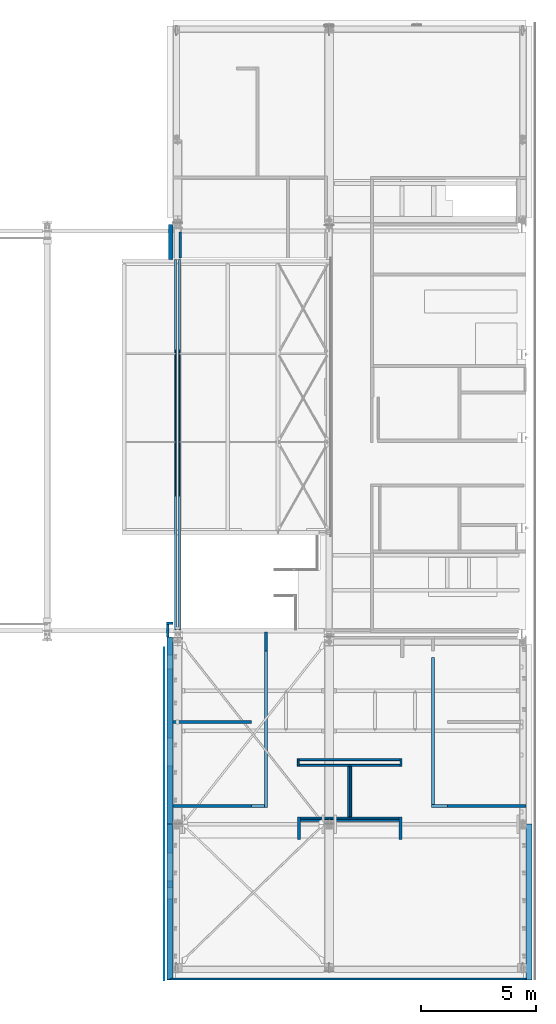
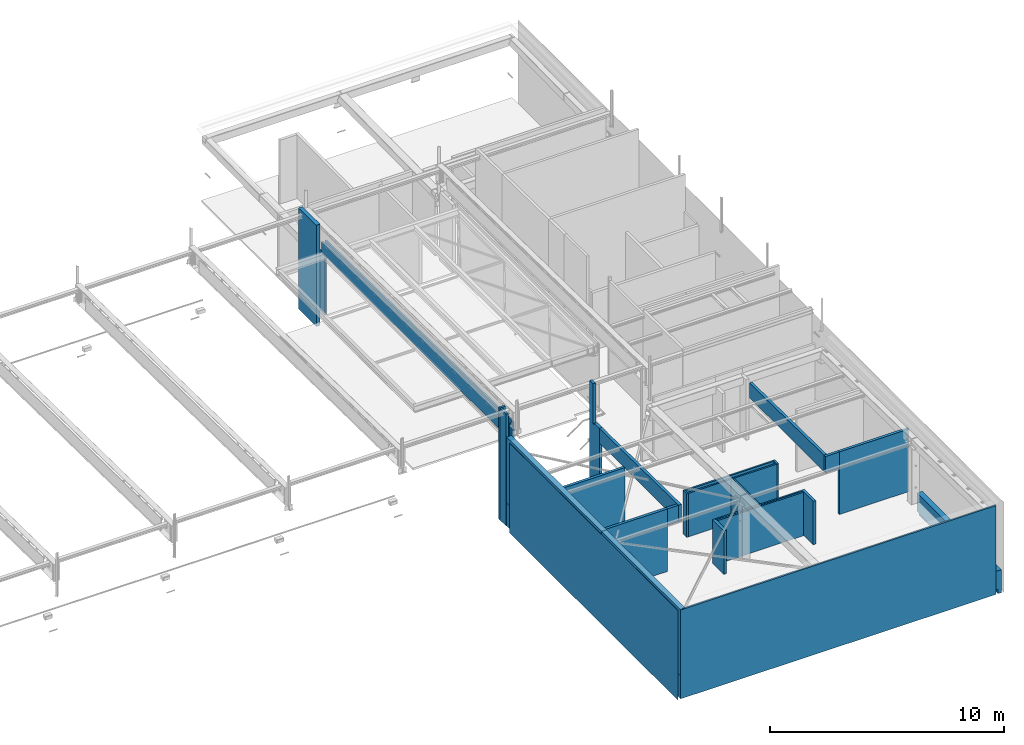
# One storey, part 120 of 186: 31 walls, 7 openings.
"""IFC4X3_ADD2 building model written with IfcOpenShell, lengths in millimetres."""

from ifc_helpers import new_model, si_unit, direction, frame, frame_2d, origin_with_axes, place, context, subcontext, project, spatial, polyline, rectangle, outline, extrude, clip, bounded_halfspace, material, layer, layer_set, type_object, element, save


model = new_model("IFC4X3_ADD2")

# Units and contexts
model_context = context("Model", 3, precision=1e-05, world=origin_with_axes(), true_north=direction((0.0, 1.0)))
body_context = subcontext(model_context, "Body", "Model", "MODEL_VIEW")
ifc_project = project(units=[si_unit("LENGTHUNIT", "METRE", prefix="MILLI"), si_unit("AREAUNIT", "SQUARE_METRE"), si_unit("VOLUMEUNIT", "CUBIC_METRE"), si_unit("PLANEANGLEUNIT", "RADIAN"), si_unit("TIMEUNIT", "SECOND"), si_unit("MASSUNIT", "GRAM")], contexts=[model_context])

# Site, building, storey
site_placement = place(None, origin_with_axes())
site = spatial("IfcSite", under=ifc_project, at=site_placement, Name="Site", CompositionType="ELEMENT")
building_placement = place(site_placement, origin_with_axes())
building = spatial("IfcBuilding", under=site, at=building_placement, Name="IFC Building Story")
storey_placement = place(building_placement, frame((0.0, 0.0, 4370.0), z_axis=(0.0, 0.0, 1.0), x_axis=(1.0, 0.0, 0.0)))
storey = spatial("IfcBuildingStorey", under=building, at=storey_placement, Name="ETAGE 10 (1)", Elevation=4370.0)

# Walls
ifc_material_1 = material(Name="BS_28_Ossature en béton armé - Eléments préfabriqués(panneau façade)")
ifc_layer_1 = layer(ifc_material_1, 90.0)
ifc_material_2 = material(Name="BS_21_Isolation des murs extérieurs")
ifc_layer_2 = layer(ifc_material_2, 100.0)
ifc_layer_3 = layer(ifc_material_1, 60.0)
ifc_layer_set_1 = layer_set([ifc_layer_1, ifc_layer_2, ifc_layer_3], Name="Mur de base:BS_21_WA_BTpréfab90-ISO100-BTlissépréfab60")
wall_type_1 = type_object("IfcWallType", Name="Mur de base:BS_21_WA_BTpréfab90-ISO100-BTlissépréfab60 250", PredefinedType="NOTDEFINED", material=ifc_layer_set_1)
wall_1_placement = place(storey_placement, origin_with_axes())
element("IfcWall", 1, at=wall_1_placement, inside=storey, type_object=wall_type_1, Name="Mur de base:BS_21_WA_BTpréfab90-ISO100-BTlissépréfab60", ObjectType="Mur de base:BS_21_WA_BTpréfab90-ISO100-BTlissépréfab60", context=body_context, shape_type="Clipping", body=[
    clip(extrude(outline(polyline([(125.0, -3374.999956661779), (-125.0, -3374.999956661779), (-125.0, 3374.999956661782), (125.0, 3374.999956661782), (125.0, -3374.999956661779)])), frame((48626.68947815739, -11405.00004338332, -825.0), z_axis=(0.0, 0.0, 1.0), x_axis=(1.0, 0.0, 0.0)), (0.0, 0.0, 1.0), 1199.0), bounded_halfspace(frame((0.0, 0.0, -590.0), z_axis=(0.0, 0.0, -1.0), x_axis=(-1.0, 0.0, 0.0)), False, frame((48626.68947815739, -11405.00004338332, -825.0), z_axis=(0.0, 0.0, 1.0), x_axis=(1.0, 0.0, 0.0)), polyline([(-35.00000000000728, -3374.999956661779), (-125.0, -3374.999956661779), (-125.0, 3374.999956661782), (-35.00000000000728, 3374.999956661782), (-35.00000000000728, -3374.999956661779)]))),
])
wall_2_placement = place(storey_placement, origin_with_axes())
element("IfcWall", 2, at=wall_2_placement, inside=storey, type_object=wall_type_1, Name="Mur de base:BS_21_WA_BTpréfab90-ISO100-BTlissépréfab60", ObjectType="Mur de base:BS_21_WA_BTpréfab90-ISO100-BTlissépréfab60", context=body_context, shape_type="Clipping", body=[
    clip(extrude(outline(polyline([(-125.0, 3354.999956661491), (125.0, 3354.999956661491), (125.0, -3314.99995666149), (-125.0, -3394.99995666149), (-125.0, 3354.999956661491)])), frame((33076.6894781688, -11385.00004333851, -825.0), z_axis=(0.0, 0.0, 1.0), x_axis=(1.0, 0.0, 0.0)), (0.0, 0.0, 1.0), 1199.0), bounded_halfspace(frame((0.0, 0.0, -590.0), z_axis=(0.0, 0.0, -1.0), x_axis=(-1.0, 0.0, 0.0)), False, frame((33076.6894781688, -11385.00004333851, -825.0), z_axis=(0.0, 0.0, 1.0), x_axis=(1.0, 0.0, 0.0)), polyline([(35.0, 3354.999956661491), (125.0, 3354.999956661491), (125.0, -3314.99995666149), (35.0, -3343.799956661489), (35.0, 3354.999956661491)]))),
])
wall_3_placement = place(storey_placement, origin_with_axes())
element("IfcWall", 3, at=wall_3_placement, inside=storey, type_object=wall_type_1, Name="Mur de base:BS_21_WA_BTpréfab90-ISO100-BTlissépréfab60", ObjectType="Mur de base:BS_21_WA_BTpréfab90-ISO100-BTlissépréfab60", context=body_context, shape_type="Clipping", body=[
    clip(extrude(outline(polyline([(-125.0, 4055.000043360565), (125.0000000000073, 4055.000043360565), (125.0000000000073, -4055.000043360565), (-125.0, -4055.000043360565), (-125.0, 4055.000043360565)])), frame((33076.6894781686, -3975.00004336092, -825.0), z_axis=(0.0, 0.0, 1.0), x_axis=(1.0, 0.0, 0.0)), (0.0, 0.0, 1.0), 1199.0), bounded_halfspace(frame((0.0, 0.0, -590.0), z_axis=(0.0, 0.0, -1.0), x_axis=(-1.0, 0.0, 0.0)), False, frame((33076.6894781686, -3975.00004336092, -825.0), z_axis=(0.0, 0.0, 1.0), x_axis=(1.0, 0.0, 0.0)), polyline([(35.0, 4055.000043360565), (125.0000000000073, 4055.000043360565), (125.0000000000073, -4055.000043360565), (35.0, -4055.000043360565), (35.0, 4055.000043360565)]))),
])

# Wall, openings
wall_4_placement = place(storey_placement, origin_with_axes())
wall_4 = element("IfcWall", 4, at=wall_4_placement, inside=storey, type_object=wall_type_1, Name="Mur de base:BS_21_WA_BTpréfab90-ISO100-BTlissépréfab60", ObjectType="Mur de base:BS_21_WA_BTpréfab90-ISO100-BTlissépréfab60", context=body_context, shape_type="SweptSolid", body=[
    extrude(rectangle(XDim=8110.000086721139, YDim=250.0000000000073, at=frame_2d((0.0, 5.95523630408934e-12), x_axis=(0.0, 1.0))), frame((33076.6894781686, -3975.00004336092, 375.0), z_axis=(0.0, 0.0, 1.0), x_axis=(1.0, 0.0, 0.0)), (0.0, 0.0, 1.0), 3430.0),
])
opening_1_placement = place(wall_4_placement, frame((33201.68947816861, -4905.00000013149, 1500.0), z_axis=(-1.0, 0.0, 0.0), x_axis=(0.0, 1.0, 0.0)))
element("IfcOpeningElement", 5, at=opening_1_placement, cuts=wall_4, ObjectType="Opening", context=body_context, shape_type="SweptSolid", body=[
    extrude(outline(polyline([(600.0, -225.0), (-599.9999999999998, -225.0), (-599.9999999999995, 224.9999999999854), (600.0, 224.9999999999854), (600.0, -225.0)])), frame((0.0, -500.0, 24.99999999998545), z_axis=(0.0, 1.0, 0.0), x_axis=(1.0, 0.0, 0.0)), (0.0, 0.0, 1.0), 999.9999999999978),
])
opening_2_placement = place(wall_4_placement, frame((33201.68947816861, -6040.0, 2000.0), z_axis=(-1.0, 0.0, 0.0), x_axis=(0.0, 1.0, 0.0)))
element("IfcOpeningElement", 6, at=opening_2_placement, cuts=wall_4, ObjectType="Opening", context=body_context, shape_type="SweptSolid", body=[
    extrude(outline(polyline([(250.0000000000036, -225.0), (-250.0, -225.0), (-250.0, 224.9999999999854), (250.0000000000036, 224.9999999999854), (250.0000000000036, -225.0)])), frame((-1.818989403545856e-12, -450.0000000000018, 24.99999999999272), z_axis=(0.0, 1.0, 0.0), x_axis=(1.0, 0.0, 0.0)), (0.0, 0.0, 1.0), 899.9999999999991),
])
opening_3_placement = place(wall_4_placement, frame((33201.68947816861, -2415.000000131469, 1750.0), z_axis=(-1.0, 0.0, 0.0), x_axis=(0.0, 1.0, 0.0)))
element("IfcOpeningElement", 7, at=opening_3_placement, cuts=wall_4, ObjectType="Opening", context=body_context, shape_type="SweptSolid", body=[
    extrude(outline(polyline([(600.0, -225.0), (-599.9999999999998, -225.0), (-599.9999999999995, 224.9999999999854), (600.0, 224.9999999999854), (600.0, -225.0)])), frame((0.0, -499.9999999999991, 25.00000000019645), z_axis=(0.0, 1.0, 0.0), x_axis=(1.0, 0.0, 0.0)), (0.0, 0.0, 1.0), 1000.0),
])
opening_4_placement = place(wall_4_placement, frame((33201.68947816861, -1005.00000013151, 1500.0), z_axis=(-1.0, 0.0, 0.0), x_axis=(0.0, 1.0, 0.0)))
element("IfcOpeningElement", 8, at=opening_4_placement, cuts=wall_4, ObjectType="Opening", context=body_context, shape_type="SweptSolid", body=[
    extrude(outline(polyline([(300.0, -225.0), (-300.0, -225.0), (-300.0, 224.9999999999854), (300.0, 224.9999999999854), (300.0, -225.0)])), frame((0.0, -499.9999999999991, 25.00000000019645), z_axis=(0.0, 1.0, 0.0), x_axis=(1.0, 0.0, 0.0)), (0.0, 0.0, 1.0), 999.9999999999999),
])

# Walls
ifc_material_3 = material(Name="BS_22_Maçonnerie intérieure - Type4 -  en béton")
wall_type_2 = type_object("IfcWallType", Name="Mur de base:BS_22_WA_BBTlourd190", PredefinedType="NOTDEFINED", material=ifc_material_3)
wall_5_placement = place(storey_placement, origin_with_axes())
element("IfcWall", 9, at=wall_5_placement, inside=storey, type_object=wall_type_2, Name="Mur de base:BS_22_WA_BBTlourd190", ObjectType="Mur de base:BS_22_WA_BBTlourd190", context=body_context, shape_type="Clipping", body=[
    clip(extrude(outline(polyline([(-95.0, 762.500000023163), (95.0, 762.500000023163), (95.0, -762.5000000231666), (-95.0, -762.5000000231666), (-95.0, 762.500000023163)])), frame((33106.6894781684, 17182.49999998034, -370.0), z_axis=(0.0, 0.0, 1.0), x_axis=(1.0, 0.0, 0.0)), (0.0, 0.0, 1.0), 5276.82407369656), bounded_halfspace(frame((0.0, 142.8147277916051, 5150.981852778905), z_axis=(0.0, 0.01499831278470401, 0.9998875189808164), x_axis=(1.0, 0.0, 0.0)), False, frame((33106.6894781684, 17182.49999998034, -370.0), z_axis=(0.0, 0.0, 1.0), x_axis=(1.0, 0.0, 0.0)), polyline([(95.0, -762.5000000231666), (95.0, 762.500000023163), (-95.0, 762.500000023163), (-95.0, -762.5000000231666), (95.0, -762.5000000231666)]))),
])
ifc_material_4 = material(Name="BS_42_Revêtement mural en plaques - type A (gyproc)")
ifc_layer_4 = layer(ifc_material_4, 12.5)
ifc_material_5 = material(Name="BS_42_Panneau OSB")
ifc_layer_5 = layer(ifc_material_5, 18.0)
ifc_material_6 = material(Name="BS_42_ContreCloison-Laine minérale")
ifc_layer_6 = layer(ifc_material_6, 75.0)
ifc_layer_7 = layer(ifc_material_5, 18.0)
ifc_layer_8 = layer(ifc_material_4, 12.5)
ifc_layer_set_2 = layer_set([ifc_layer_4, ifc_layer_5, ifc_layer_6, ifc_layer_7, ifc_layer_8], Name="Mur de base:BS_22_WA_C1")
wall_type_3 = type_object("IfcWallType", Name="Mur de base:BS_22_WA_C1 136", PredefinedType="NOTDEFINED", material=ifc_layer_set_2)
wall_6_placement = place(storey_placement, origin_with_axes())
element("IfcWall", 10, at=wall_6_placement, inside=storey, type_object=wall_type_3, Name="Mur de base:BS_22_WA_C1", ObjectType="Mur de base:BS_22_WA_C1", context=body_context, shape_type="Clipping", body=[
    clip(clip(clip(extrude(outline(polyline([(-90.5, -554.4714945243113), (-90.5, 277.4857472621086), (45.00000000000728, 277.4857472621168), (45.00000000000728, 276.9857472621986), (45.5, 276.9857472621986), (45.5, -554.4714945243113), (-90.5, -554.4714945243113)])), frame((37257.378856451, 17.01425274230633, 0.0), z_axis=(0.0, 0.0, 1.0), x_axis=(1.0, 0.0, 0.0)), (0.0, 0.0, 1.0), 5153.115508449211), bounded_halfspace(frame((0.0, 0.0, 3060.0), z_axis=(0.0, 0.0, 1.0), x_axis=(1.0, 0.0, 0.0)), False, frame((37257.378856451, 17.01425274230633, 0.0), z_axis=(0.0, 0.0, 1.0), x_axis=(1.0, 0.0, 0.0)), polyline([(-90.5, -16.44323630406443), (-90.5, -108.1793961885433), (45.5, -108.1793961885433), (45.5, -16.44323630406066), (-90.5, -16.44323630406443)]))), bounded_halfspace(frame((0.0, 142.8147277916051, 5150.981852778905), z_axis=(0.0, 0.01499831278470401, 0.9998875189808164), x_axis=(1.0, 0.0, 0.0)), False, frame((37257.378856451, 17.01425274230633, 0.0), z_axis=(0.0, 0.0, 1.0), x_axis=(1.0, 0.0, 0.0)), polyline([(-90.5, 277.4857472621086), (-90.5, -16.44323630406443), (45.5, -16.44323630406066), (45.5, 276.9857472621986), (45.00000000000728, 276.9857472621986), (45.00000000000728, 277.4857472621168), (-90.5, 277.4857472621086)]))), bounded_halfspace(frame((0.0, 116.7829354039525, 3146.381885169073), z_axis=(0.0, 0.0155352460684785, 0.9998793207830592), x_axis=(1.0, 0.0, 0.0)), False, frame((37257.378856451, 17.01425274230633, 0.0), z_axis=(0.0, 0.0, 1.0), x_axis=(1.0, 0.0, 0.0)), polyline([(45.5, -554.4714945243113), (45.5, -108.1793961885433), (-90.5, -108.1793961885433), (-90.5, -554.4714945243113), (45.5, -554.4714945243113)]))),
])
wall_7_placement = place(storey_placement, origin_with_axes())
element("IfcWall", 11, at=wall_7_placement, inside=storey, type_object=wall_type_3, Name="Mur de base:BS_22_WA_C1", ObjectType="Mur de base:BS_22_WA_C1", context=body_context, shape_type="Clipping", body=[
    clip(extrude(outline(polyline([(-1706.953376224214, 68.0), (1706.953376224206, 68.0), (1706.953376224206, -68.0), (-1706.953376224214, -68.0), (-1706.953376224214, 68.0)])), frame((34908.6428543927, -3606.250000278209, 0.0), z_axis=(0.0, 0.0, 1.0), x_axis=(1.0, 0.0, 0.0)), (0.0, 0.0, 1.0), 3205.283622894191), bounded_halfspace(frame((0.0, 116.7829354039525, 3146.381885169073), z_axis=(0.0, 0.0155352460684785, 0.9998793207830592), x_axis=(1.0, 0.0, 0.0)), False, frame((34908.6428543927, -3606.250000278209, 0.0), z_axis=(0.0, 0.0, 1.0), x_axis=(1.0, 0.0, 0.0)), polyline([(1706.953376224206, -68.0), (1706.953376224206, 68.0), (-1706.953376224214, 68.0), (-1706.953376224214, -68.0), (1706.953376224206, -68.0)]))),
])
wall_8_placement = place(storey_placement, origin_with_axes())
element("IfcWall", 12, at=wall_8_placement, inside=storey, type_object=wall_type_3, Name="Mur de base:BS_22_WA_C1", ObjectType="Mur de base:BS_22_WA_C1", context=body_context, shape_type="Clipping", body=[
    clip(extrude(outline(polyline([(-1706.953376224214, -68.0), (-1706.953376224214, 68.0), (1706.953376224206, 68.0), (1706.953376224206, -68.0), (-1706.953376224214, -68.0)])), frame((34908.64285439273, -7242.542758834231, 0.0), z_axis=(0.0, 0.0, 1.0), x_axis=(1.0, 0.0, 0.0)), (0.0, 0.0, 1.0), 3261.78114375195), bounded_halfspace(frame((0.0, 116.7829354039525, 3146.381885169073), z_axis=(0.0, 0.0155352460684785, 0.9998793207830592), x_axis=(1.0, 0.0, 0.0)), False, frame((34908.64285439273, -7242.542758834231, 0.0), z_axis=(0.0, 0.0, 1.0), x_axis=(1.0, 0.0, 0.0)), polyline([(1706.953376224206, 68.0), (-1706.953376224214, 68.0), (-1706.953376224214, -68.0), (1706.953376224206, -68.0), (1706.953376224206, 68.0)]))),
])
wall_9_placement = place(storey_placement, origin_with_axes())
element("IfcWall", 13, at=wall_9_placement, inside=storey, type_object=wall_type_3, Name="Mur de base:BS_22_WA_C1", ObjectType="Mur de base:BS_22_WA_C1", context=body_context, shape_type="Clipping", body=[
    clip(extrude(outline(polyline([(1706.127314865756, 68.0), (1706.127314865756, -67.99999999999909), (-1706.127314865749, -67.99999999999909), (-1706.127314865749, 68.0), (1706.127314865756, 68.0)])), frame((46795.34478898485, -7242.542758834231, 0.0), z_axis=(0.0, 0.0, 1.0), x_axis=(1.0, 0.0, 0.0)), (0.0, 0.0, 1.0), 3261.78114375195), bounded_halfspace(frame((0.0, 116.7829354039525, 3146.381885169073), z_axis=(0.0, 0.0155352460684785, 0.9998793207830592), x_axis=(1.0, 0.0, 0.0)), False, frame((46795.34478898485, -7242.542758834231, 0.0), z_axis=(0.0, 0.0, 1.0), x_axis=(1.0, 0.0, 0.0)), polyline([(-1706.127314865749, -67.99999999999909), (1706.127314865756, -67.99999999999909), (1706.127314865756, 68.0), (-1706.127314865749, 68.0), (-1706.127314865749, -67.99999999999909)]))),
])
wall_10_placement = place(storey_placement, origin_with_axes())
element("IfcWall", 14, at=wall_10_placement, inside=storey, type_object=wall_type_3, Name="Mur de base:BS_22_WA_C1", ObjectType="Mur de base:BS_22_WA_C1", context=body_context, shape_type="SweptSolid", body=[
    extrude(rectangle(XDim=979.9999763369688, YDim=136.0, at=frame_2d((0.0, 5.95523630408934e-12), x_axis=(0.0, 1.0))), frame((43052.4394781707, -8215.000051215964, 0.0), z_axis=(0.0, 0.0, 1.0), x_axis=(1.0, 0.0, 0.0)), (0.0, 0.0, 1.0), 2265.0),
])
wall_11_placement = place(storey_placement, origin_with_axes())
element("IfcWall", 15, at=wall_11_placement, inside=storey, type_object=wall_type_3, Name="Mur de base:BS_22_WA_C1", ObjectType="Mur de base:BS_22_WA_C1", context=body_context, shape_type="SweptSolid", body=[
    extrude(rectangle(XDim=979.9999763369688, YDim=136.0000000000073, at=frame_2d((0.0, 5.95523630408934e-12), x_axis=(0.0, 1.0))), frame((38657.4939132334, -8215.000051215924, 0.0), z_axis=(0.0, 0.0, 1.0), x_axis=(1.0, 0.0, 0.0)), (0.0, 0.0, 1.0), 2265.0),
])
wall_12_placement = place(storey_placement, origin_with_axes())
element("IfcWall", 16, at=wall_12_placement, inside=storey, type_object=wall_type_3, Name="Mur de base:BS_22_WA_C1", ObjectType="Mur de base:BS_22_WA_C1", context=body_context, shape_type="Clipping", body=[
    clip(extrude(outline(polyline([(344.0, 68.0), (344.0, -67.99999999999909), (-344.0, -67.99999999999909), (-344.0, 68.0), (344.0, 68.0)])), frame((44745.2174741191, -7242.542758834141, 2400.0), z_axis=(0.0, 0.0, 1.0), x_axis=(1.0, 0.0, 0.0)), (0.0, 0.0, 1.0), 861.7811437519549), bounded_halfspace(frame((0.0, 116.7829354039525, 3146.381885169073), z_axis=(0.0, 0.0155352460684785, 0.9998793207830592), x_axis=(1.0, 0.0, 0.0)), False, frame((44745.2174741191, -7242.542758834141, 2400.0), z_axis=(0.0, 0.0, 1.0), x_axis=(1.0, 0.0, 0.0)), polyline([(-344.0, -67.99999999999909), (344.0, -67.99999999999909), (344.0, 68.0), (-344.0, 68.0), (-344.0, -67.99999999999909)]))),
])
wall_13_placement = place(storey_placement, origin_with_axes())
element("IfcWall", 17, at=wall_13_placement, inside=storey, type_object=wall_type_3, Name="Mur de base:BS_22_WA_C1", ObjectType="Mur de base:BS_22_WA_C1", context=body_context, shape_type="Clipping", body=[
    clip(extrude(outline(polyline([(-68.0, 3179.770333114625), (68.0, 3179.770333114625), (68.0, -3179.770333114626), (-68.0, -3179.770333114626), (-68.0, 3179.770333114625)])), frame((44469.217474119, -3994.772425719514, 2400.0), z_axis=(0.0, 0.0, 1.0), x_axis=(1.0, 0.0, 0.0)), (0.0, 0.0, 1.0), 859.6680952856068), bounded_halfspace(frame((0.0, 116.7829354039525, 3146.381885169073), z_axis=(0.0, 0.0155352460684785, 0.9998793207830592), x_axis=(1.0, 0.0, 0.0)), False, frame((44469.217474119, -3994.772425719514, 2400.0), z_axis=(0.0, 0.0, 1.0), x_axis=(1.0, 0.0, 0.0)), polyline([(68.0, -3179.770333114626), (68.0, 3179.770333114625), (-68.0, 3179.770333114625), (-68.0, -3179.770333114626), (68.0, -3179.770333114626)]))),
])
wall_14_placement = place(storey_placement, origin_with_axes())
element("IfcWall", 18, at=wall_14_placement, inside=storey, type_object=wall_type_3, Name="Mur de base:BS_22_WA_C1", ObjectType="Mur de base:BS_22_WA_C1", context=body_context, shape_type="Clipping", body=[
    clip(extrude(outline(polyline([(-275.6413129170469, -68.0), (-275.6413129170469, 67.99999999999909), (275.6413129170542, 67.99999999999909), (275.6413129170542, -68.0), (-275.6413129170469, -68.0)])), frame((36891.23754353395, -7242.542758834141, 2400.0), z_axis=(0.0, 0.0, 1.0), x_axis=(1.0, 0.0, 0.0)), (0.0, 0.0, 1.0), 861.7811437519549), bounded_halfspace(frame((0.0, 116.7829354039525, 3146.381885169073), z_axis=(0.0, 0.0155352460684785, 0.9998793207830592), x_axis=(1.0, 0.0, 0.0)), False, frame((36891.23754353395, -7242.542758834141, 2400.0), z_axis=(0.0, 0.0, 1.0), x_axis=(1.0, 0.0, 0.0)), polyline([(275.6413129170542, 67.99999999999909), (-275.6413129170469, 67.99999999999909), (-275.6413129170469, -68.0), (275.6413129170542, -68.0), (275.6413129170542, 67.99999999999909)]))),
])
wall_15_placement = place(storey_placement, origin_with_axes())
element("IfcWall", 19, at=wall_15_placement, inside=storey, type_object=wall_type_3, Name="Mur de base:BS_22_WA_C1", ObjectType="Mur de base:BS_22_WA_C1", context=body_context, shape_type="Clipping", body=[
    clip(extrude(outline(polyline([(-68.00000000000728, 3386.542758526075), (68.0, 3386.542758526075), (68.0, -3386.542758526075), (-68.00000000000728, -3386.542758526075), (-68.00000000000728, 3386.542758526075)])), frame((37234.878856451, -3924.000000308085, 2400.0), z_axis=(0.0, 0.0, 1.0), x_axis=(1.0, 0.0, 0.0)), (0.0, 0.0, 1.0), 861.7811437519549), bounded_halfspace(frame((0.0, 116.7829354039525, 3146.381885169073), z_axis=(0.0, 0.0155352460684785, 0.9998793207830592), x_axis=(1.0, 0.0, 0.0)), False, frame((37234.878856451, -3924.000000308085, 2400.0), z_axis=(0.0, 0.0, 1.0), x_axis=(1.0, 0.0, 0.0)), polyline([(68.0, -3386.542758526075), (68.0, 3386.542758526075), (-68.00000000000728, 3386.542758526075), (-68.00000000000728, -3386.542758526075), (68.0, -3386.542758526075)]))),
])
ifc_layer_9 = layer(ifc_material_6, 37.5)
ifc_layer_10 = layer(ifc_material_6, 37.5)
ifc_layer_11 = layer(ifc_material_5, 18.0)
ifc_layer_12 = layer(ifc_material_4, 12.5)
ifc_layer_set_3 = layer_set([ifc_layer_9, ifc_layer_10, ifc_layer_11, ifc_layer_12], Name="Mur de base:BS_22_WA_CC3")
wall_type_4 = type_object("IfcWallType", Name="Mur de base:BS_22_WA_CC3 105.5", PredefinedType="NOTDEFINED", material=ifc_layer_set_3)
wall_16_placement = place(storey_placement, origin_with_axes())
element("IfcWall", 20, at=wall_16_placement, inside=storey, type_object=wall_type_4, Name="Mur de base:BS_22_WA_CC3", ObjectType="Mur de base:BS_22_WA_CC3", context=body_context, shape_type="Clipping", body=[
    clip(extrude(outline(polyline([(137.9998726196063, 52.75000000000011), (137.9998726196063, -52.75), (-137.9998726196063, -52.75), (-137.9998726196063, 52.75000000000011), (137.9998726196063, 52.75000000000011)])), frame((33068.1881273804, 672.2499637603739, -825.0), z_axis=(0.0, 0.0, 1.0), x_axis=(1.0, 0.0, 0.0)), (0.0, 0.0, 1.0), 5815.893012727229), bounded_halfspace(frame((0.0, 140.5211654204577, 4998.077694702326), z_axis=(0.0, 0.01499831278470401, 0.9998875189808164), x_axis=(1.0, 0.0, 0.0)), False, frame((33068.1881273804, 672.2499637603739, -825.0), z_axis=(0.0, 0.0, 1.0), x_axis=(1.0, 0.0, 0.0)), polyline([(-137.9998726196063, -52.75), (137.9998726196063, -52.75), (137.9998726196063, 52.75000000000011), (-137.9998726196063, 52.75000000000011), (-137.9998726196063, -52.75)]))),
])
wall_17_placement = place(storey_placement, origin_with_axes())
element("IfcWall", 21, at=wall_17_placement, inside=storey, type_object=wall_type_4, Name="Mur de base:BS_22_WA_CC3", ObjectType="Mur de base:BS_22_WA_CC3", context=body_context, shape_type="Clipping", body=[
    clip(extrude(outline(polyline([(-52.75, 269.7499818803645), (52.75, 269.7499818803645), (52.75, -269.7499818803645), (-52.75, -269.7499818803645), (-52.75, 269.7499818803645)])), frame((32982.9382547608, 349.7499818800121, -825.0), z_axis=(0.0, 0.0, 1.0), x_axis=(1.0, 0.0, 0.0)), (0.0, 0.0, 1.0), 5823.985512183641), bounded_halfspace(frame((0.0, 140.5211654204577, 4998.077694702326), z_axis=(0.0, 0.01499831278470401, 0.9998875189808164), x_axis=(1.0, 0.0, 0.0)), False, frame((32982.9382547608, 349.7499818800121, -825.0), z_axis=(0.0, 0.0, 1.0), x_axis=(1.0, 0.0, 0.0)), polyline([(52.75, -269.7499818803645), (52.75, 269.7499818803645), (-52.75, 269.7499818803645), (-52.75, -269.7499818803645), (52.75, -269.7499818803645)]))),
])
ifc_layer_13 = layer(ifc_material_6, 25.0)
ifc_layer_14 = layer(ifc_material_6, 25.0)
ifc_layer_15 = layer(ifc_material_5, 18.0)
ifc_material_7 = material(Name="BS_42_Revêtement mural en plaques - type Rf (gyproc)")
ifc_layer_16 = layer(ifc_material_7, 12.5)
ifc_layer_17 = layer(ifc_material_7, 12.5)
ifc_layer_set_4 = layer_set([ifc_layer_13, ifc_layer_14, ifc_layer_15, ifc_layer_16, ifc_layer_17], Name="Mur de base:BS_22_WA_CC5")
wall_type_5 = type_object("IfcWallType", Name="Mur de base:BS_22_WA_CC5 93", PredefinedType="NOTDEFINED", material=ifc_layer_set_4)
wall_18_placement = place(storey_placement, origin_with_axes())
element("IfcWall", 22, at=wall_18_placement, inside=storey, type_object=wall_type_5, Name="Mur de base:BS_22_WA_CC5", ObjectType="Mur de base:BS_22_WA_CC5", context=body_context, shape_type="SweptSolid", body=[
    extrude(rectangle(XDim=1108.49999993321, YDim=92.99999999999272, at=frame_2d((0.0, 5.95523630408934e-12), x_axis=(0.0, 1.0))), frame((33521.0250200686, 17055.75000003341, 0.0), z_axis=(0.0, 0.0, 1.0), x_axis=(1.0, 0.0, 0.0)), (0.0, 0.0, 1.0), 3100.0),
])
ifc_layer_18 = layer(ifc_material_6, 25.0)
ifc_layer_19 = layer(ifc_material_6, 25.0)
ifc_layer_20 = layer(ifc_material_5, 18.0)
ifc_layer_21 = layer(ifc_material_4, 12.5)
ifc_layer_set_5 = layer_set([ifc_layer_18, ifc_layer_19, ifc_layer_20, ifc_layer_21], Name="Mur de base:BS_22_WA_CC2")
wall_type_6 = type_object("IfcWallType", Name="Mur de base:BS_22_WA_CC2 80.5", PredefinedType="NOTDEFINED", material=ifc_layer_set_5)
wall_19_placement = place(storey_placement, origin_with_axes())
element("IfcWall", 23, at=wall_19_placement, inside=storey, type_object=wall_type_6, Name="Mur de base:BS_22_WA_CC2", ObjectType="Mur de base:BS_22_WA_CC2", context=body_context, shape_type="SweptSolid", body=[
    extrude(rectangle(XDim=2200.000023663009, YDim=80.50000000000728, at=frame_2d((0.0, 5.95523630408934e-12), x_axis=(0.0, 1.0))), frame((40807.7439132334, -6625.00005121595, 0.0), z_axis=(0.0, 0.0, 1.0), x_axis=(1.0, 0.0, 0.0)), (0.0, 0.0, 1.0), 2265.0),
])
wall_20_placement = place(storey_placement, origin_with_axes())
element("IfcWall", 24, at=wall_20_placement, inside=storey, type_object=wall_type_6, Name="Mur de base:BS_22_WA_CC2", ObjectType="Mur de base:BS_22_WA_CC2", context=body_context, shape_type="SweptSolid", body=[
    extrude(rectangle(XDim=2200.000023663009, YDim=80.50000000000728, at=frame_2d((0.0, 5.95523630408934e-12), x_axis=(0.0, 1.0))), frame((40902.2363520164, -6625.00005121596, 0.0), z_axis=(0.0, 0.0, 1.0), x_axis=(1.0, 0.0, 0.0)), (0.0, 0.0, 1.0), 2265.0),
])
wall_21_placement = place(storey_placement, origin_with_axes())
element("IfcWall", 25, at=wall_21_placement, inside=storey, type_object=wall_type_6, Name="Mur de base:BS_22_WA_CC2", ObjectType="Mur de base:BS_22_WA_CC2", context=body_context, shape_type="Clipping", body=[
    clip(extrude(outline(polyline([(40.25, 8010.000000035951), (40.25, -8010.000000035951), (-40.24999999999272, -8010.000000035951), (-40.24999999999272, 8010.000000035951), (40.25, 8010.000000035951)])), frame((33314.4394781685, 8409.999999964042, 3392.50000000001), z_axis=(0.0, 0.0, 1.0), x_axis=(1.0, 0.0, 0.0)), (0.0, 0.0, 1.0), 823.0000000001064), bounded_halfspace(frame((0.0, 128.8435102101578, 4219.567347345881), z_axis=(0.0, 0.01499831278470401, 0.9998875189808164), x_axis=(1.0, 0.0, 0.0)), False, frame((33314.4394781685, 8409.999999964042, 3392.50000000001), z_axis=(0.0, 0.0, 1.0), x_axis=(1.0, 0.0, 0.0)), polyline([(40.25, -8010.000000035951), (40.25, 8010.000000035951), (-40.24999999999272, 8010.000000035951), (-40.24999999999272, -8010.000000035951), (40.25, -8010.000000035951)]))),
])
wall_22_placement = place(storey_placement, origin_with_axes())
element("IfcWall", 26, at=wall_22_placement, inside=storey, type_object=wall_type_6, Name="Mur de base:BS_22_WA_CC2", ObjectType="Mur de base:BS_22_WA_CC2", context=body_context, shape_type="Clipping", body=[
    clip(extrude(outline(polyline([(40.25, 8010.000000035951), (40.25, -8010.000000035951), (-40.24999999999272, -8010.000000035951), (-40.24999999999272, 8010.000000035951), (40.25, 8010.000000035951)])), frame((33488.9394781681, 8409.999999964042, 3392.50000000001), z_axis=(0.0, 0.0, 1.0), x_axis=(1.0, 0.0, 0.0)), (0.0, 0.0, 1.0), 823.0000000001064), bounded_halfspace(frame((0.0, 128.8435102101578, 4219.567347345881), z_axis=(0.0, 0.01499831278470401, 0.9998875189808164), x_axis=(1.0, 0.0, 0.0)), False, frame((33488.9394781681, 8409.999999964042, 3392.50000000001), z_axis=(0.0, 0.0, 1.0), x_axis=(1.0, 0.0, 0.0)), polyline([(40.25, -8010.000000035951), (40.25, 8010.000000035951), (-40.24999999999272, 8010.000000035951), (-40.24999999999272, -8010.000000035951), (40.25, -8010.000000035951)]))),
])
wall_23_placement = place(storey_placement, origin_with_axes())
element("IfcWall", 27, at=wall_23_placement, inside=storey, type_object=wall_type_6, Name="Mur de base:BS_22_WA_CC2", ObjectType="Mur de base:BS_22_WA_CC2", context=body_context, shape_type="SweptSolid", body=[
    extrude(rectangle(XDim=4369.445564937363, YDim=80.49999999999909, at=frame_2d((0.0, 5.95523630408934e-12), x_axis=(1.0, 0.0))), frame((40855.21669570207, -5484.75003938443, 0.0), z_axis=(0.0, 0.0, 1.0), x_axis=(1.0, 0.0, 0.0)), (0.0, 0.0, 1.0), 2265.0),
])
wall_24_placement = place(storey_placement, origin_with_axes())
element("IfcWall", 28, at=wall_24_placement, inside=storey, type_object=wall_type_6, Name="Mur de base:BS_22_WA_CC2", ObjectType="Mur de base:BS_22_WA_CC2", context=body_context, shape_type="SweptSolid", body=[
    extrude(rectangle(XDim=4369.445564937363, YDim=80.49999999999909, at=frame_2d((0.0, 5.95523630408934e-12), x_axis=(1.0, 0.0))), frame((40855.21669570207, -5235.250039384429, 0.0), z_axis=(0.0, 0.0, 1.0), x_axis=(1.0, 0.0, 0.0)), (0.0, 0.0, 1.0), 2265.0),
])
wall_25_placement = place(storey_placement, origin_with_axes())
element("IfcWall", 29, at=wall_25_placement, inside=storey, type_object=wall_type_6, Name="Mur de base:BS_22_WA_CC2", ObjectType="Mur de base:BS_22_WA_CC2", context=body_context, shape_type="SweptSolid", body=[
    extrude(rectangle(XDim=4258.945564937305, YDim=80.49999999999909, at=frame_2d((0.0, 5.95523630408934e-12), x_axis=(1.0, 0.0))), frame((40854.96669570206, -7864.75003938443, 0.0), z_axis=(0.0, 0.0, 1.0), x_axis=(1.0, 0.0, 0.0)), (0.0, 0.0, 1.0), 2265.0),
])
wall_26_placement = place(storey_placement, origin_with_axes())
element("IfcWall", 30, at=wall_26_placement, inside=storey, type_object=wall_type_6, Name="Mur de base:BS_22_WA_CC2", ObjectType="Mur de base:BS_22_WA_CC2", context=body_context, shape_type="SweptSolid", body=[
    extrude(rectangle(XDim=4258.945564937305, YDim=80.49999999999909, at=frame_2d((0.0, 5.95523630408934e-12), x_axis=(1.0, 0.0))), frame((40854.96669570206, -7765.250063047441, 0.0), z_axis=(0.0, 0.0, 1.0), x_axis=(1.0, 0.0, 0.0)), (0.0, 0.0, 1.0), 2265.0),
])
wall_27_placement = place(storey_placement, origin_with_axes())
element("IfcWall", 31, at=wall_27_placement, inside=storey, type_object=wall_type_6, Name="Mur de base:BS_22_WA_CC2", ObjectType="Mur de base:BS_22_WA_CC2", context=body_context, shape_type="SweptSolid", body=[
    extrude(rectangle(XDim=330.0, YDim=80.5, at=frame_2d((0.0, 5.95523630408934e-12), x_axis=(0.0, 1.0))), frame((38630.2439132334, -5360.00003938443, 0.0), z_axis=(0.0, 0.0, 1.0), x_axis=(1.0, 0.0, 0.0)), (0.0, 0.0, 1.0), 2265.0),
])
wall_28_placement = place(storey_placement, origin_with_axes())
element("IfcWall", 32, at=wall_28_placement, inside=storey, type_object=wall_type_6, Name="Mur de base:BS_22_WA_CC2", ObjectType="Mur de base:BS_22_WA_CC2", context=body_context, shape_type="SweptSolid", body=[
    extrude(rectangle(XDim=330.0, YDim=80.50000000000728, at=frame_2d((0.0, 5.95523630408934e-12), x_axis=(0.0, 1.0))), frame((43080.18947817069, -5360.00003938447, 0.0), z_axis=(0.0, 0.0, 1.0), x_axis=(1.0, 0.0, 0.0)), (0.0, 0.0, 1.0), 2265.0),
])

# Wall, openings
ifc_layer_22 = layer(ifc_material_1, 90.0)
ifc_layer_23 = layer(ifc_material_2, 100.0)
ifc_layer_24 = layer(ifc_material_1, 60.0)
ifc_layer_set_6 = layer_set([ifc_layer_22, ifc_layer_23, ifc_layer_24], Name="Mur de base:BS_21_WA_BTpréfab90-ISO100-BTlissépréfab60 (porte-à-faux)")
wall_type_7 = type_object("IfcWallType", Name="Mur de base:BS_21_WA_BTpréfab90-ISO100-BTlissépréfab60 (porte-à-faux) 250", PredefinedType="NOTDEFINED", material=ifc_layer_set_6)
wall_29_placement = place(storey_placement, origin_with_axes())
wall_29 = element("IfcWall", 33, at=wall_29_placement, inside=storey, type_object=wall_type_7, Name="Mur de base:BS_21_WA_BTpréfab90-ISO100-BTlissépréfab60 (porte-à-faux)", ObjectType="Mur de base:BS_21_WA_BTpréfab90-ISO100-BTlissépréfab60 (porte-à-faux)", context=body_context, shape_type="SweptSolid", body=[
    extrude(outline(polyline([(125.0, -3314.99995666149), (-125.0, -3394.99995666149), (-125.0, 3354.999956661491), (125.0, 3354.999956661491), (125.0, -3314.99995666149)])), frame((33076.6894781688, -11385.00004333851, 375.0000000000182), z_axis=(0.0, 0.0, 1.0), x_axis=(1.0, 0.0, 0.0)), (0.0, 0.0, 1.0), 3429.999999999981),
])
opening_5_placement = place(wall_29_placement, frame((33201.6894781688, -9885.00000012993, 1650.0), z_axis=(-1.0, 0.0, 0.0), x_axis=(0.0, 1.0, 0.0)))
element("IfcOpeningElement", 34, at=opening_5_placement, cuts=wall_29, ObjectType="Opening", context=body_context, shape_type="SweptSolid", body=[
    extrude(outline(polyline([(600.0, -225.0), (-599.9999999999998, -225.0), (-599.9999999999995, 224.9999999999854), (600.0, 224.9999999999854), (600.0, -225.0)])), frame((0.0, -499.9999999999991, 25.00000000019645), z_axis=(0.0, 1.0, 0.0), x_axis=(1.0, 0.0, 0.0)), (0.0, 0.0, 1.0), 999.9999999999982),
])
opening_6_placement = place(wall_29_placement, frame((33201.6894781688, -11020.0, 1300.0), z_axis=(-1.0, 0.0, 0.0), x_axis=(0.0, 1.0, 0.0)))
element("IfcOpeningElement", 35, at=opening_6_placement, cuts=wall_29, ObjectType="Opening", context=body_context, shape_type="SweptSolid", body=[
    extrude(outline(polyline([(250.0000000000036, -225.0), (-250.0, -225.0), (-250.0, 224.9999999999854), (250.0000000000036, 224.9999999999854), (250.0000000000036, -225.0)])), frame((0.0, -450.0, 25.00000000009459), z_axis=(0.0, 1.0, 0.0), x_axis=(1.0, 0.0, 0.0)), (0.0, 0.0, 1.0), 899.999999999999),
])
opening_7_placement = place(wall_29_placement, frame((33201.6894781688, -13030.0, 1875.0), z_axis=(-1.0, 0.0, 0.0), x_axis=(0.0, 1.0, 0.0)))
element("IfcOpeningElement", 36, at=opening_7_placement, cuts=wall_29, ObjectType="Opening", context=body_context, shape_type="SweptSolid", body=[
    extrude(outline(polyline([(600.0, -225.0), (-599.9999999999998, -225.0), (-599.9999999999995, 224.9999999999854), (600.0, 224.9999999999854), (600.0, -225.0)])), frame((0.0, -425.0, 25.00000000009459), z_axis=(0.0, 1.0, 0.0), x_axis=(1.0, 0.0, 0.0)), (0.0, 0.0, 1.0), 849.9999999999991),
])

# Walls
wall_type_8 = type_object("IfcWallType", Name="Mur de base:BS_21_WA_ISO80", PredefinedType="NOTDEFINED", material=ifc_material_2)
wall_30_placement = place(storey_placement, origin_with_axes())
element("IfcWall", 37, at=wall_30_placement, inside=storey, type_object=wall_type_8, Name="Mur de base:BS_21_WA_ISO80", ObjectType="Mur de base:BS_21_WA_ISO80", context=body_context, shape_type="SweptSolid", body=[
    extrude(outline(polyline([(7712.5, -40.0), (-7837.5, -40.0), (-7587.5, 40.0), (7712.5, 40.0), (7712.5, -40.0)])), frame((40789.1894781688, -14740.0, -825.0), z_axis=(0.0, 0.0, 1.0), x_axis=(1.0, 0.0, 0.0)), (0.0, 0.0, 1.0), 4635.0),
])
ifc_material_8 = material(Name="BS_41_Bardage en tôle perforé")
wall_type_9 = type_object("IfcWallType", Name="Mur de base:BS_41_WA_TOLE MET10", PredefinedType="NOTDEFINED", material=ifc_material_8)
wall_31_placement = place(storey_placement, origin_with_axes())
element("IfcWall", 38, at=wall_31_placement, inside=storey, type_object=wall_type_9, Name="Mur de base:BS_41_WA_TOLE MET10", ObjectType="Mur de base:BS_41_WA_TOLE MET10", context=body_context, shape_type="SweptSolid", body=[
    extrude(rectangle(XDim=14386.9850730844, YDim=10.0, at=frame_2d((0.0, 5.95523630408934e-12), x_axis=(0.0, 1.0))), frame((32823.5701942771, -7586.50746350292, -850.0), z_axis=(0.0, 0.0, 1.0), x_axis=(1.0, 0.0, 0.0)), (0.0, 0.0, 1.0), 4680.0),
])

save(model, "model.ifc")
